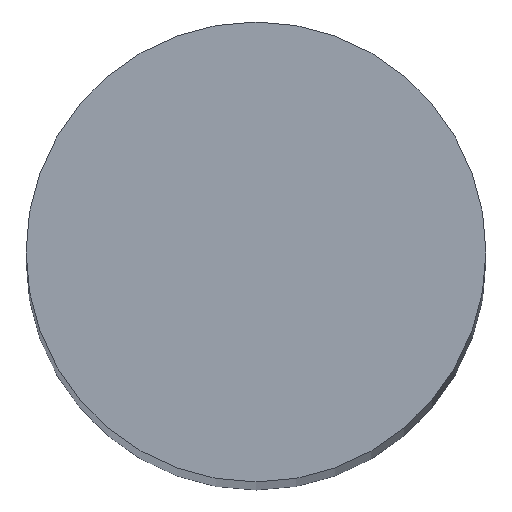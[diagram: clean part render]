
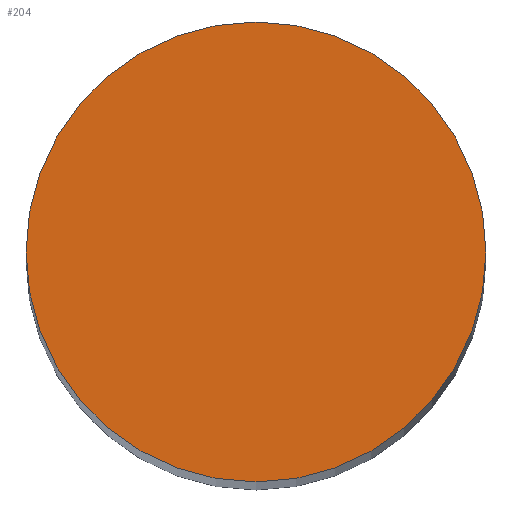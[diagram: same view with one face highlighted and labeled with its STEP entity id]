
A CAD part, top view. The second image highlights one B-rep face of the part: STEP entity #204.
In plain terms, the highlighted planar face has unit normal (0, 0, 1).
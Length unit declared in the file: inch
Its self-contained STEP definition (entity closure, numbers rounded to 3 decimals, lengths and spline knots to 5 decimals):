
#145=CARTESIAN_POINT('',(0.0,-0.0625,1.5));
#146=VERTEX_POINT('',#145);
#153=CARTESIAN_POINT('',(0.0,0.0625,1.5));
#154=VERTEX_POINT('',#153);
#155=CARTESIAN_POINT('',(0.0,0.0,1.5));
#156=DIRECTION('',(0.0,-0.0,-1.0));
#157=DIRECTION('',(0.0,1.0,-0.0));
#158=AXIS2_PLACEMENT_3D('',#155,#156,#157);
#159=CIRCLE('',#158,0.0625);
#160=EDGE_CURVE('no 1299',#146,#154,#159,.T.);
#180=CARTESIAN_POINT('',(0.0,0.0,1.5));
#181=DIRECTION('',(0.0,-0.0,-1.0));
#182=DIRECTION('',(0.0,1.0,-0.0));
#183=AXIS2_PLACEMENT_3D('',#180,#181,#182);
#184=CIRCLE('',#183,0.0625);
#185=EDGE_CURVE('no 1303',#154,#146,#184,.T.);
#195=ORIENTED_EDGE('',*,*,#160,.F.);
#196=ORIENTED_EDGE('',*,*,#185,.F.);
#197=EDGE_LOOP('',(#195,#196));
#198=FACE_OUTER_BOUND('',#197,.T.);
#199=CARTESIAN_POINT('',(0.0625,0.0,1.5));
#200=DIRECTION('',(0.0,0.0,1.0));
#201=DIRECTION('',(0.0,-1.0,0.0));
#202=AXIS2_PLACEMENT_3D('',#199,#200,#201);
#203=PLANE('',#202);
#204=ADVANCED_FACE('no 1403',(#198),#203,.T.);
